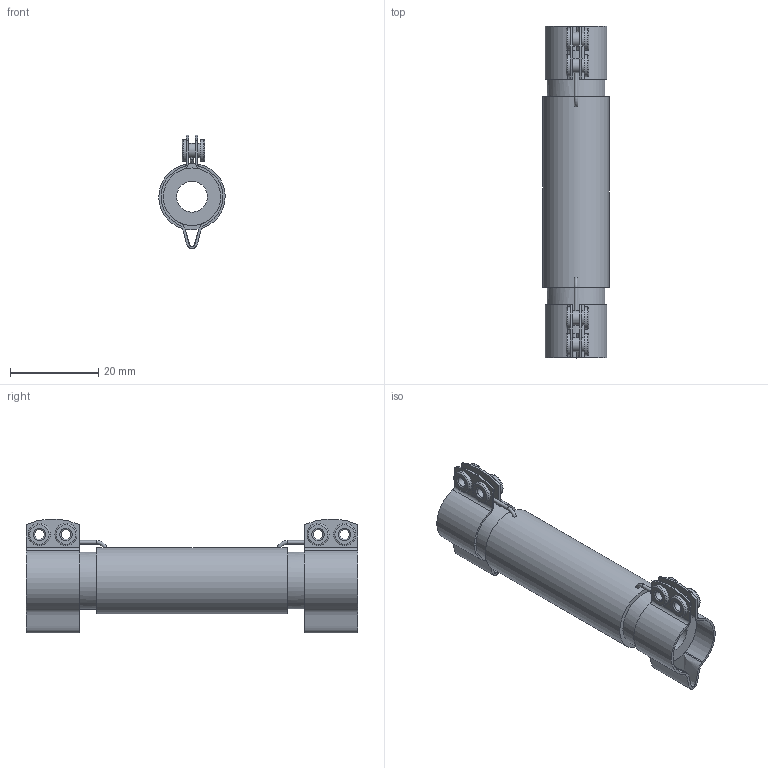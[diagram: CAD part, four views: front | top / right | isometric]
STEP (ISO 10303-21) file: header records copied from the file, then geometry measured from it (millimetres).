
FILE_DESCRIPTION(/* description */ (''),/* implementation_level */ '2;1');
FILE_NAME(/* name */ 'C:\_Vault\Dati\CATALOGO\RC-RS\TF\RS1025.stp',/* time_stamp */ '2014-01-29T14:03:15+01:00',/* author */ ('stefano'),/* organization */ (''),/* preprocessor_version */ 'ST-DEVELOPER v15.2',/* originating_system */ 'Autodesk Inventor 2014',/* authorisation */ '');
FILE_SCHEMA (('AUTOMOTIVE_DESIGN { 1 0 10303 214 3 1 1 }'));
Length unit declared in the file: millimetre
Products named in the file (1): RS1025
Bounding box: 14.99 x 75 x 25.67 mm (x, y, z)
Volume: 8797.7 mm3; surface area: 7248.9 mm2
Topology: 1 solids, 5 shells, 122 faces, 287 edges, 187 vertices
Faces by surface type: cylinder 52, plane 44, torus 18, bspline 8
Full cylindrical faces by diameter (mm): 0.4 x2, 0.8 x4, 2.2 x4, 3.2 x8, 5 x8, 7 x1, 13 x2, 15 x1
Entity records: 3919 total; most frequent: CARTESIAN_POINT 1101, DIRECTION 554, ORIENTED_EDGE 460, AXIS2_PLACEMENT_3D 239, EDGE_CURVE 230, EDGE_LOOP 212, VERTEX_POINT 178, CIRCLE 124
